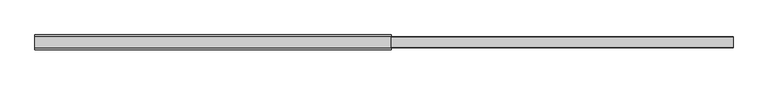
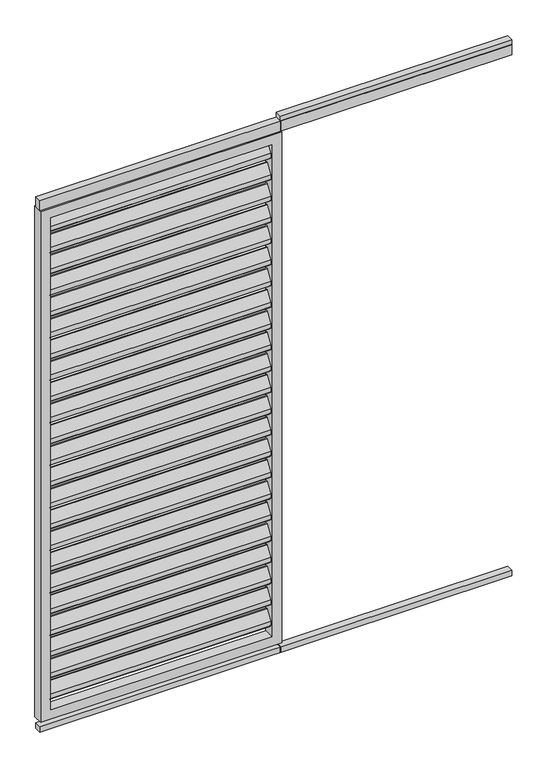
"""IFC4 building model written with IfcOpenShell, lengths in millimetres: proxy geometry, Renson_Algarve_Loggia_Paro_Aluminium : Renson_Algarve_Loggia_Paro_Aluminium."""

from ifc_helpers import new_model, si_unit, point, frame, frame_2d, origin, origin_with_axes, place, context, project, spatial, polyline, circle_curve, trimmed, segment, composite_curve, outline, extrude, source, transform, mapped, element, save


def generic_models_26a3d349(model_context):
    return source(origin(), model_context, "Body", "SweptSolid", [
        extrude(outline(composite_curve([segment(trimmed(circle_curve(frame_2d((12.6675921, 2162.6587719)), 3.0), [point((10.1515804, 2164.292689))], [point((15.6675921, 2162.6587719))], False, "CARTESIAN"), True, "CONTINUOUS"), segment(polyline([(15.6675921, 2162.6587719), (15.6675921, 2144.2979873)]), True, "CONTINUOUS"), segment(trimmed(circle_curve(frame_2d((12.6675921, 2144.2979873)), 3.0), [point((15.6675921, 2144.2979873))], [point((15.1836038, 2142.6640702))], False, "CARTESIAN"), True, "CONTINUOUS"), segment(polyline([(15.1836038, 2142.6640702), (-8.8163962, 2105.707311)]), True, "CONTINUOUS"), segment(trimmed(circle_curve(frame_2d((-11.3324079, 2107.3412281)), 3.0), [point((-8.8163962, 2105.707311))], [point((-14.3324079, 2107.3412281))], False, "CARTESIAN"), True, "CONTINUOUS"), segment(polyline([(-14.3324079, 2107.3412281), (-14.3324079, 2126.5906532), (10.1515804, 2164.292689)]), True, "CONTINUOUS")], self_intersect=False)), frame((-442.5, 0.0, 0.0), z_axis=(1.0, 0.0, 0.0), x_axis=(0.0, 1.0, 0.0)), (0.0, 0.0, 1.0), 885.0),
        extrude(outline(composite_curve([segment(trimmed(circle_curve(frame_2d((12.6675921, 2072.6587719)), 3.0), [point((10.1515804, 2074.292689))], [point((15.6675921, 2072.6587719))], False, "CARTESIAN"), True, "CONTINUOUS"), segment(polyline([(15.6675921, 2072.6587719), (15.6675921, 2054.2979873)]), True, "CONTINUOUS"), segment(trimmed(circle_curve(frame_2d((12.6675921, 2054.2979873)), 3.0), [point((15.6675921, 2054.2979873))], [point((15.1836038, 2052.6640702))], False, "CARTESIAN"), True, "CONTINUOUS"), segment(polyline([(15.1836038, 2052.6640702), (-8.8163962, 2015.707311)]), True, "CONTINUOUS"), segment(trimmed(circle_curve(frame_2d((-11.3324079, 2017.3412281)), 3.0), [point((-8.8163962, 2015.707311))], [point((-14.3324079, 2017.3412281))], False, "CARTESIAN"), True, "CONTINUOUS"), segment(polyline([(-14.3324079, 2017.3412281), (-14.3324079, 2036.5906532), (10.1515804, 2074.292689)]), True, "CONTINUOUS")], self_intersect=False)), frame((-442.5, 0.0, 0.0), z_axis=(1.0, 0.0, 0.0), x_axis=(0.0, 1.0, 0.0)), (0.0, 0.0, 1.0), 885.0),
        extrude(outline(composite_curve([segment(trimmed(circle_curve(frame_2d((12.6675921, 1982.6587719)), 3.0), [point((10.1515804, 1984.292689))], [point((15.6675921, 1982.6587719))], False, "CARTESIAN"), True, "CONTINUOUS"), segment(polyline([(15.6675921, 1982.6587719), (15.6675921, 1964.2979873)]), True, "CONTINUOUS"), segment(trimmed(circle_curve(frame_2d((12.6675921, 1964.2979873)), 3.0), [point((15.6675921, 1964.2979873))], [point((15.1836038, 1962.6640702))], False, "CARTESIAN"), True, "CONTINUOUS"), segment(polyline([(15.1836038, 1962.6640702), (-8.8163962, 1925.707311)]), True, "CONTINUOUS"), segment(trimmed(circle_curve(frame_2d((-11.3324079, 1927.3412281)), 3.0), [point((-8.8163962, 1925.707311))], [point((-14.3324079, 1927.3412281))], False, "CARTESIAN"), True, "CONTINUOUS"), segment(polyline([(-14.3324079, 1927.3412281), (-14.3324079, 1946.5906532), (10.1515804, 1984.292689)]), True, "CONTINUOUS")], self_intersect=False)), frame((-442.5, 0.0, 0.0), z_axis=(1.0, 0.0, 0.0), x_axis=(0.0, 1.0, 0.0)), (0.0, 0.0, 1.0), 885.0),
        extrude(outline(composite_curve([segment(trimmed(circle_curve(frame_2d((12.6675921, 1892.6587719)), 3.0), [point((10.1515804, 1894.292689))], [point((15.6675921, 1892.6587719))], False, "CARTESIAN"), True, "CONTINUOUS"), segment(polyline([(15.6675921, 1892.6587719), (15.6675921, 1874.2979873)]), True, "CONTINUOUS"), segment(trimmed(circle_curve(frame_2d((12.6675921, 1874.2979873)), 3.0), [point((15.6675921, 1874.2979873))], [point((15.1836038, 1872.6640702))], False, "CARTESIAN"), True, "CONTINUOUS"), segment(polyline([(15.1836038, 1872.6640702), (-8.8163962, 1835.707311)]), True, "CONTINUOUS"), segment(trimmed(circle_curve(frame_2d((-11.3324079, 1837.3412281)), 3.0), [point((-8.8163962, 1835.707311))], [point((-14.3324079, 1837.3412281))], False, "CARTESIAN"), True, "CONTINUOUS"), segment(polyline([(-14.3324079, 1837.3412281), (-14.3324079, 1856.5906532), (10.1515804, 1894.292689)]), True, "CONTINUOUS")], self_intersect=False)), frame((-442.5, 0.0, 0.0), z_axis=(1.0, 0.0, 0.0), x_axis=(0.0, 1.0, 0.0)), (0.0, 0.0, 1.0), 885.0),
        extrude(outline(composite_curve([segment(trimmed(circle_curve(frame_2d((12.6675921, 1802.6587719)), 3.0), [point((10.1515804, 1804.292689))], [point((15.6675921, 1802.6587719))], False, "CARTESIAN"), True, "CONTINUOUS"), segment(polyline([(15.6675921, 1802.6587719), (15.6675921, 1784.2979873)]), True, "CONTINUOUS"), segment(trimmed(circle_curve(frame_2d((12.6675921, 1784.2979873)), 3.0), [point((15.6675921, 1784.2979873))], [point((15.1836038, 1782.6640702))], False, "CARTESIAN"), True, "CONTINUOUS"), segment(polyline([(15.1836038, 1782.6640702), (-8.8163962, 1745.707311)]), True, "CONTINUOUS"), segment(trimmed(circle_curve(frame_2d((-11.3324079, 1747.3412281)), 3.0), [point((-8.8163962, 1745.707311))], [point((-14.3324079, 1747.3412281))], False, "CARTESIAN"), True, "CONTINUOUS"), segment(polyline([(-14.3324079, 1747.3412281), (-14.3324079, 1766.5906532), (10.1515804, 1804.292689)]), True, "CONTINUOUS")], self_intersect=False)), frame((-442.5, 0.0, 0.0), z_axis=(1.0, 0.0, 0.0), x_axis=(0.0, 1.0, 0.0)), (0.0, 0.0, 1.0), 885.0),
        extrude(outline(composite_curve([segment(trimmed(circle_curve(frame_2d((12.6675921, 1712.6587719)), 3.0), [point((10.1515804, 1714.292689))], [point((15.6675921, 1712.6587719))], False, "CARTESIAN"), True, "CONTINUOUS"), segment(polyline([(15.6675921, 1712.6587719), (15.6675921, 1694.2979873)]), True, "CONTINUOUS"), segment(trimmed(circle_curve(frame_2d((12.6675921, 1694.2979873)), 3.0), [point((15.6675921, 1694.2979873))], [point((15.1836038, 1692.6640702))], False, "CARTESIAN"), True, "CONTINUOUS"), segment(polyline([(15.1836038, 1692.6640702), (-8.8163962, 1655.707311)]), True, "CONTINUOUS"), segment(trimmed(circle_curve(frame_2d((-11.3324079, 1657.3412281)), 3.0), [point((-8.8163962, 1655.707311))], [point((-14.3324079, 1657.3412281))], False, "CARTESIAN"), True, "CONTINUOUS"), segment(polyline([(-14.3324079, 1657.3412281), (-14.3324079, 1676.5906532), (10.1515804, 1714.292689)]), True, "CONTINUOUS")], self_intersect=False)), frame((-442.5, 0.0, 0.0), z_axis=(1.0, 0.0, 0.0), x_axis=(0.0, 1.0, 0.0)), (0.0, 0.0, 1.0), 885.0),
        extrude(outline(composite_curve([segment(trimmed(circle_curve(frame_2d((12.6675921, 1622.6587719)), 3.0), [point((10.1515804, 1624.292689))], [point((15.6675921, 1622.6587719))], False, "CARTESIAN"), True, "CONTINUOUS"), segment(polyline([(15.6675921, 1622.6587719), (15.6675921, 1604.2979873)]), True, "CONTINUOUS"), segment(trimmed(circle_curve(frame_2d((12.6675921, 1604.2979873)), 3.0), [point((15.6675921, 1604.2979873))], [point((15.1836038, 1602.6640702))], False, "CARTESIAN"), True, "CONTINUOUS"), segment(polyline([(15.1836038, 1602.6640702), (-8.8163962, 1565.707311)]), True, "CONTINUOUS"), segment(trimmed(circle_curve(frame_2d((-11.3324079, 1567.3412281)), 3.0), [point((-8.8163962, 1565.707311))], [point((-14.3324079, 1567.3412281))], False, "CARTESIAN"), True, "CONTINUOUS"), segment(polyline([(-14.3324079, 1567.3412281), (-14.3324079, 1586.5906532), (10.1515804, 1624.292689)]), True, "CONTINUOUS")], self_intersect=False)), frame((-442.5, 0.0, 0.0), z_axis=(1.0, 0.0, 0.0), x_axis=(0.0, 1.0, 0.0)), (0.0, 0.0, 1.0), 885.0),
        extrude(outline(composite_curve([segment(trimmed(circle_curve(frame_2d((12.6675921, 1532.6587719)), 3.0), [point((10.1515804, 1534.292689))], [point((15.6675921, 1532.6587719))], False, "CARTESIAN"), True, "CONTINUOUS"), segment(polyline([(15.6675921, 1532.6587719), (15.6675921, 1514.2979873)]), True, "CONTINUOUS"), segment(trimmed(circle_curve(frame_2d((12.6675921, 1514.2979873)), 3.0), [point((15.6675921, 1514.2979873))], [point((15.1836038, 1512.6640702))], False, "CARTESIAN"), True, "CONTINUOUS"), segment(polyline([(15.1836038, 1512.6640702), (-8.8163962, 1475.707311)]), True, "CONTINUOUS"), segment(trimmed(circle_curve(frame_2d((-11.3324079, 1477.3412281)), 3.0), [point((-8.8163962, 1475.707311))], [point((-14.3324079, 1477.3412281))], False, "CARTESIAN"), True, "CONTINUOUS"), segment(polyline([(-14.3324079, 1477.3412281), (-14.3324079, 1496.5906532), (10.1515804, 1534.292689)]), True, "CONTINUOUS")], self_intersect=False)), frame((-442.5, 0.0, 0.0), z_axis=(1.0, 0.0, 0.0), x_axis=(0.0, 1.0, 0.0)), (0.0, 0.0, 1.0), 885.0),
        extrude(outline(composite_curve([segment(trimmed(circle_curve(frame_2d((12.6675921, 1442.6587719)), 3.0), [point((10.1515804, 1444.292689))], [point((15.6675921, 1442.6587719))], False, "CARTESIAN"), True, "CONTINUOUS"), segment(polyline([(15.6675921, 1442.6587719), (15.6675921, 1424.2979873)]), True, "CONTINUOUS"), segment(trimmed(circle_curve(frame_2d((12.6675921, 1424.2979873)), 3.0), [point((15.6675921, 1424.2979873))], [point((15.1836038, 1422.6640702))], False, "CARTESIAN"), True, "CONTINUOUS"), segment(polyline([(15.1836038, 1422.6640702), (-8.8163962, 1385.707311)]), True, "CONTINUOUS"), segment(trimmed(circle_curve(frame_2d((-11.3324079, 1387.3412281)), 3.0), [point((-8.8163962, 1385.707311))], [point((-14.3324079, 1387.3412281))], False, "CARTESIAN"), True, "CONTINUOUS"), segment(polyline([(-14.3324079, 1387.3412281), (-14.3324079, 1406.5906532), (10.1515804, 1444.292689)]), True, "CONTINUOUS")], self_intersect=False)), frame((-442.5, 0.0, 0.0), z_axis=(1.0, 0.0, 0.0), x_axis=(0.0, 1.0, 0.0)), (0.0, 0.0, 1.0), 885.0),
        extrude(outline(composite_curve([segment(trimmed(circle_curve(frame_2d((12.6675921, 1352.6587719)), 3.0), [point((10.1515804, 1354.292689))], [point((15.6675921, 1352.6587719))], False, "CARTESIAN"), True, "CONTINUOUS"), segment(polyline([(15.6675921, 1352.6587719), (15.6675921, 1334.2979873)]), True, "CONTINUOUS"), segment(trimmed(circle_curve(frame_2d((12.6675921, 1334.2979873)), 3.0), [point((15.6675921, 1334.2979873))], [point((15.1836038, 1332.6640702))], False, "CARTESIAN"), True, "CONTINUOUS"), segment(polyline([(15.1836038, 1332.6640702), (-8.8163962, 1295.707311)]), True, "CONTINUOUS"), segment(trimmed(circle_curve(frame_2d((-11.3324079, 1297.3412281)), 3.0), [point((-8.8163962, 1295.707311))], [point((-14.3324079, 1297.3412281))], False, "CARTESIAN"), True, "CONTINUOUS"), segment(polyline([(-14.3324079, 1297.3412281), (-14.3324079, 1316.5906532), (10.1515804, 1354.292689)]), True, "CONTINUOUS")], self_intersect=False)), frame((-442.5, 0.0, 0.0), z_axis=(1.0, 0.0, 0.0), x_axis=(0.0, 1.0, 0.0)), (0.0, 0.0, 1.0), 885.0),
        extrude(outline(composite_curve([segment(trimmed(circle_curve(frame_2d((12.6675921, 1262.6587719)), 3.0), [point((10.1515804, 1264.292689))], [point((15.6675921, 1262.6587719))], False, "CARTESIAN"), True, "CONTINUOUS"), segment(polyline([(15.6675921, 1262.6587719), (15.6675921, 1244.2979873)]), True, "CONTINUOUS"), segment(trimmed(circle_curve(frame_2d((12.6675921, 1244.2979873)), 3.0), [point((15.6675921, 1244.2979873))], [point((15.1836038, 1242.6640702))], False, "CARTESIAN"), True, "CONTINUOUS"), segment(polyline([(15.1836038, 1242.6640702), (-8.8163962, 1205.707311)]), True, "CONTINUOUS"), segment(trimmed(circle_curve(frame_2d((-11.3324079, 1207.3412281)), 3.0), [point((-8.8163962, 1205.707311))], [point((-14.3324079, 1207.3412281))], False, "CARTESIAN"), True, "CONTINUOUS"), segment(polyline([(-14.3324079, 1207.3412281), (-14.3324079, 1226.5906532), (10.1515804, 1264.292689)]), True, "CONTINUOUS")], self_intersect=False)), frame((-442.5, 0.0, 0.0), z_axis=(1.0, 0.0, 0.0), x_axis=(0.0, 1.0, 0.0)), (0.0, 0.0, 1.0), 885.0),
        extrude(outline(composite_curve([segment(trimmed(circle_curve(frame_2d((12.6675921, 1172.6587719)), 3.0), [point((10.1515804, 1174.292689))], [point((15.6675921, 1172.6587719))], False, "CARTESIAN"), True, "CONTINUOUS"), segment(polyline([(15.6675921, 1172.6587719), (15.6675921, 1154.2979873)]), True, "CONTINUOUS"), segment(trimmed(circle_curve(frame_2d((12.6675921, 1154.2979873)), 3.0), [point((15.6675921, 1154.2979873))], [point((15.1836038, 1152.6640702))], False, "CARTESIAN"), True, "CONTINUOUS"), segment(polyline([(15.1836038, 1152.6640702), (-8.8163962, 1115.707311)]), True, "CONTINUOUS"), segment(trimmed(circle_curve(frame_2d((-11.3324079, 1117.3412281)), 3.0), [point((-8.8163962, 1115.707311))], [point((-14.3324079, 1117.3412281))], False, "CARTESIAN"), True, "CONTINUOUS"), segment(polyline([(-14.3324079, 1117.3412281), (-14.3324079, 1136.5906532), (10.1515804, 1174.292689)]), True, "CONTINUOUS")], self_intersect=False)), frame((-442.5, 0.0, 0.0), z_axis=(1.0, 0.0, 0.0), x_axis=(0.0, 1.0, 0.0)), (0.0, 0.0, 1.0), 885.0),
        extrude(outline(composite_curve([segment(trimmed(circle_curve(frame_2d((12.6675921, 1082.6587719)), 3.0), [point((10.1515804, 1084.292689))], [point((15.6675921, 1082.6587719))], False, "CARTESIAN"), True, "CONTINUOUS"), segment(polyline([(15.6675921, 1082.6587719), (15.6675921, 1064.2979873)]), True, "CONTINUOUS"), segment(trimmed(circle_curve(frame_2d((12.6675921, 1064.2979873)), 3.0), [point((15.6675921, 1064.2979873))], [point((15.1836038, 1062.6640702))], False, "CARTESIAN"), True, "CONTINUOUS"), segment(polyline([(15.1836038, 1062.6640702), (-8.8163962, 1025.707311)]), True, "CONTINUOUS"), segment(trimmed(circle_curve(frame_2d((-11.3324079, 1027.3412281)), 3.0), [point((-8.8163962, 1025.707311))], [point((-14.3324079, 1027.3412281))], False, "CARTESIAN"), True, "CONTINUOUS"), segment(polyline([(-14.3324079, 1027.3412281), (-14.3324079, 1046.5906532), (10.1515804, 1084.292689)]), True, "CONTINUOUS")], self_intersect=False)), frame((-442.5, 0.0, 0.0), z_axis=(1.0, 0.0, 0.0), x_axis=(0.0, 1.0, 0.0)), (0.0, 0.0, 1.0), 885.0),
        extrude(outline(composite_curve([segment(trimmed(circle_curve(frame_2d((12.6675921, 992.6587719)), 3.0), [point((10.1515804, 994.292689))], [point((15.6675921, 992.6587719))], False, "CARTESIAN"), True, "CONTINUOUS"), segment(polyline([(15.6675921, 992.6587719), (15.6675921, 974.2979873)]), True, "CONTINUOUS"), segment(trimmed(circle_curve(frame_2d((12.6675921, 974.2979873)), 3.0), [point((15.6675921, 974.2979873))], [point((15.1836038, 972.6640702))], False, "CARTESIAN"), True, "CONTINUOUS"), segment(polyline([(15.1836038, 972.6640702), (-8.8163962, 935.707311)]), True, "CONTINUOUS"), segment(trimmed(circle_curve(frame_2d((-11.3324079, 937.3412281)), 3.0), [point((-8.8163962, 935.707311))], [point((-14.3324079, 937.3412281))], False, "CARTESIAN"), True, "CONTINUOUS"), segment(polyline([(-14.3324079, 937.3412281), (-14.3324079, 956.5906532), (10.1515804, 994.292689)]), True, "CONTINUOUS")], self_intersect=False)), frame((-442.5, 0.0, 0.0), z_axis=(1.0, 0.0, 0.0), x_axis=(0.0, 1.0, 0.0)), (0.0, 0.0, 1.0), 885.0),
        extrude(outline(composite_curve([segment(trimmed(circle_curve(frame_2d((12.6675921, 902.6587719)), 3.0), [point((10.1515804, 904.292689))], [point((15.6675921, 902.6587719))], False, "CARTESIAN"), True, "CONTINUOUS"), segment(polyline([(15.6675921, 902.6587719), (15.6675921, 884.2979873)]), True, "CONTINUOUS"), segment(trimmed(circle_curve(frame_2d((12.6675921, 884.2979873)), 3.0), [point((15.6675921, 884.2979873))], [point((15.1836038, 882.6640702))], False, "CARTESIAN"), True, "CONTINUOUS"), segment(polyline([(15.1836038, 882.6640702), (-8.8163962, 845.707311)]), True, "CONTINUOUS"), segment(trimmed(circle_curve(frame_2d((-11.3324079, 847.3412281)), 3.0), [point((-8.8163962, 845.707311))], [point((-14.3324079, 847.3412281))], False, "CARTESIAN"), True, "CONTINUOUS"), segment(polyline([(-14.3324079, 847.3412281), (-14.3324079, 866.5906532), (10.1515804, 904.292689)]), True, "CONTINUOUS")], self_intersect=False)), frame((-442.5, 0.0, 0.0), z_axis=(1.0, 0.0, 0.0), x_axis=(0.0, 1.0, 0.0)), (0.0, 0.0, 1.0), 885.0),
        extrude(outline(composite_curve([segment(trimmed(circle_curve(frame_2d((12.6675921, 812.6587719)), 3.0), [point((10.1515804, 814.292689))], [point((15.6675921, 812.6587719))], False, "CARTESIAN"), True, "CONTINUOUS"), segment(polyline([(15.6675921, 812.6587719), (15.6675921, 794.2979873)]), True, "CONTINUOUS"), segment(trimmed(circle_curve(frame_2d((12.6675921, 794.2979873)), 3.0), [point((15.6675921, 794.2979873))], [point((15.1836038, 792.6640702))], False, "CARTESIAN"), True, "CONTINUOUS"), segment(polyline([(15.1836038, 792.6640702), (-8.8163962, 755.707311)]), True, "CONTINUOUS"), segment(trimmed(circle_curve(frame_2d((-11.3324079, 757.3412281)), 3.0), [point((-8.8163962, 755.707311))], [point((-14.3324079, 757.3412281))], False, "CARTESIAN"), True, "CONTINUOUS"), segment(polyline([(-14.3324079, 757.3412281), (-14.3324079, 776.5906532), (10.1515804, 814.292689)]), True, "CONTINUOUS")], self_intersect=False)), frame((-442.5, 0.0, 0.0), z_axis=(1.0, 0.0, 0.0), x_axis=(0.0, 1.0, 0.0)), (0.0, 0.0, 1.0), 885.0),
        extrude(outline(composite_curve([segment(trimmed(circle_curve(frame_2d((12.6675921, 722.6587719)), 3.0), [point((10.1515804, 724.292689))], [point((15.6675921, 722.6587719))], False, "CARTESIAN"), True, "CONTINUOUS"), segment(polyline([(15.6675921, 722.6587719), (15.6675921, 704.2979873)]), True, "CONTINUOUS"), segment(trimmed(circle_curve(frame_2d((12.6675921, 704.2979873)), 3.0), [point((15.6675921, 704.2979873))], [point((15.1836038, 702.6640702))], False, "CARTESIAN"), True, "CONTINUOUS"), segment(polyline([(15.1836038, 702.6640702), (-8.8163962, 665.707311)]), True, "CONTINUOUS"), segment(trimmed(circle_curve(frame_2d((-11.3324079, 667.3412281)), 3.0), [point((-8.8163962, 665.707311))], [point((-14.3324079, 667.3412281))], False, "CARTESIAN"), True, "CONTINUOUS"), segment(polyline([(-14.3324079, 667.3412281), (-14.3324079, 686.5906532), (10.1515804, 724.292689)]), True, "CONTINUOUS")], self_intersect=False)), frame((-442.5, 0.0, 0.0), z_axis=(1.0, 0.0, 0.0), x_axis=(0.0, 1.0, 0.0)), (0.0, 0.0, 1.0), 885.0),
        extrude(outline(composite_curve([segment(trimmed(circle_curve(frame_2d((12.6675921, 632.6587719)), 3.0), [point((10.1515804, 634.292689))], [point((15.6675921, 632.6587719))], False, "CARTESIAN"), True, "CONTINUOUS"), segment(polyline([(15.6675921, 632.6587719), (15.6675921, 614.2979873)]), True, "CONTINUOUS"), segment(trimmed(circle_curve(frame_2d((12.6675921, 614.2979873)), 3.0), [point((15.6675921, 614.2979873))], [point((15.1836038, 612.6640702))], False, "CARTESIAN"), True, "CONTINUOUS"), segment(polyline([(15.1836038, 612.6640702), (-8.8163962, 575.707311)]), True, "CONTINUOUS"), segment(trimmed(circle_curve(frame_2d((-11.3324079, 577.3412281)), 3.0), [point((-8.8163962, 575.707311))], [point((-14.3324079, 577.3412281))], False, "CARTESIAN"), True, "CONTINUOUS"), segment(polyline([(-14.3324079, 577.3412281), (-14.3324079, 596.5906532), (10.1515804, 634.292689)]), True, "CONTINUOUS")], self_intersect=False)), frame((-442.5, 0.0, 0.0), z_axis=(1.0, 0.0, 0.0), x_axis=(0.0, 1.0, 0.0)), (0.0, 0.0, 1.0), 885.0),
        extrude(outline(composite_curve([segment(trimmed(circle_curve(frame_2d((12.6675921, 542.6587719)), 3.0), [point((10.1515804, 544.292689))], [point((15.6675921, 542.6587719))], False, "CARTESIAN"), True, "CONTINUOUS"), segment(polyline([(15.6675921, 542.6587719), (15.6675921, 524.2979873)]), True, "CONTINUOUS"), segment(trimmed(circle_curve(frame_2d((12.6675921, 524.2979873)), 3.0), [point((15.6675921, 524.2979873))], [point((15.1836038, 522.6640702))], False, "CARTESIAN"), True, "CONTINUOUS"), segment(polyline([(15.1836038, 522.6640702), (-8.8163962, 485.707311)]), True, "CONTINUOUS"), segment(trimmed(circle_curve(frame_2d((-11.3324079, 487.3412281)), 3.0), [point((-8.8163962, 485.707311))], [point((-14.3324079, 487.3412281))], False, "CARTESIAN"), True, "CONTINUOUS"), segment(polyline([(-14.3324079, 487.3412281), (-14.3324079, 506.5906532), (10.1515804, 544.292689)]), True, "CONTINUOUS")], self_intersect=False)), frame((-442.5, 0.0, 0.0), z_axis=(1.0, 0.0, 0.0), x_axis=(0.0, 1.0, 0.0)), (0.0, 0.0, 1.0), 885.0),
        extrude(outline(composite_curve([segment(trimmed(circle_curve(frame_2d((12.6675921, 452.6587719)), 3.0), [point((10.1515804, 454.292689))], [point((15.6675921, 452.6587719))], False, "CARTESIAN"), True, "CONTINUOUS"), segment(polyline([(15.6675921, 452.6587719), (15.6675921, 434.2979873)]), True, "CONTINUOUS"), segment(trimmed(circle_curve(frame_2d((12.6675921, 434.2979873)), 3.0), [point((15.6675921, 434.2979873))], [point((15.1836038, 432.6640702))], False, "CARTESIAN"), True, "CONTINUOUS"), segment(polyline([(15.1836038, 432.6640702), (-8.8163962, 395.707311)]), True, "CONTINUOUS"), segment(trimmed(circle_curve(frame_2d((-11.3324079, 397.3412281)), 3.0), [point((-8.8163962, 395.707311))], [point((-14.3324079, 397.3412281))], False, "CARTESIAN"), True, "CONTINUOUS"), segment(polyline([(-14.3324079, 397.3412281), (-14.3324079, 416.5906532), (10.1515804, 454.292689)]), True, "CONTINUOUS")], self_intersect=False)), frame((-442.5, 0.0, 0.0), z_axis=(1.0, 0.0, 0.0), x_axis=(0.0, 1.0, 0.0)), (0.0, 0.0, 1.0), 885.0),
        extrude(outline(composite_curve([segment(trimmed(circle_curve(frame_2d((12.6675921, 362.6587719)), 3.0), [point((10.1515804, 364.292689))], [point((15.6675921, 362.6587719))], False, "CARTESIAN"), True, "CONTINUOUS"), segment(polyline([(15.6675921, 362.6587719), (15.6675921, 344.2979873)]), True, "CONTINUOUS"), segment(trimmed(circle_curve(frame_2d((12.6675921, 344.2979873)), 3.0), [point((15.6675921, 344.2979873))], [point((15.1836038, 342.6640702))], False, "CARTESIAN"), True, "CONTINUOUS"), segment(polyline([(15.1836038, 342.6640702), (-8.8163962, 305.707311)]), True, "CONTINUOUS"), segment(trimmed(circle_curve(frame_2d((-11.3324079, 307.3412281)), 3.0), [point((-8.8163962, 305.707311))], [point((-14.3324079, 307.3412281))], False, "CARTESIAN"), True, "CONTINUOUS"), segment(polyline([(-14.3324079, 307.3412281), (-14.3324079, 326.5906532), (10.1515804, 364.292689)]), True, "CONTINUOUS")], self_intersect=False)), frame((-442.5, 0.0, 0.0), z_axis=(1.0, 0.0, 0.0), x_axis=(0.0, 1.0, 0.0)), (0.0, 0.0, 1.0), 885.0),
        extrude(outline(composite_curve([segment(trimmed(circle_curve(frame_2d((12.6675921, 272.6587719)), 3.0), [point((10.1515804, 274.292689))], [point((15.6675921, 272.6587719))], False, "CARTESIAN"), True, "CONTINUOUS"), segment(polyline([(15.6675921, 272.6587719), (15.6675921, 254.2979873)]), True, "CONTINUOUS"), segment(trimmed(circle_curve(frame_2d((12.6675921, 254.2979873)), 3.0), [point((15.6675921, 254.2979873))], [point((15.1836038, 252.6640702))], False, "CARTESIAN"), True, "CONTINUOUS"), segment(polyline([(15.1836038, 252.6640702), (-8.8163962, 215.707311)]), True, "CONTINUOUS"), segment(trimmed(circle_curve(frame_2d((-11.3324079, 217.3412281)), 3.0), [point((-8.8163962, 215.707311))], [point((-14.3324079, 217.3412281))], False, "CARTESIAN"), True, "CONTINUOUS"), segment(polyline([(-14.3324079, 217.3412281), (-14.3324079, 236.5906532), (10.1515804, 274.292689)]), True, "CONTINUOUS")], self_intersect=False)), frame((-442.5, 0.0, 0.0), z_axis=(1.0, 0.0, 0.0), x_axis=(0.0, 1.0, 0.0)), (0.0, 0.0, 1.0), 885.0),
        extrude(outline(composite_curve([segment(trimmed(circle_curve(frame_2d((12.6675921, 182.6587719)), 3.0), [point((10.1515804, 184.292689))], [point((15.6675921, 182.6587719))], False, "CARTESIAN"), True, "CONTINUOUS"), segment(polyline([(15.6675921, 182.6587719), (15.6675921, 164.2979873)]), True, "CONTINUOUS"), segment(trimmed(circle_curve(frame_2d((12.6675921, 164.2979873)), 3.0), [point((15.6675921, 164.2979873))], [point((15.1836038, 162.6640702))], False, "CARTESIAN"), True, "CONTINUOUS"), segment(polyline([(15.1836038, 162.6640702), (-8.8163962, 125.707311)]), True, "CONTINUOUS"), segment(trimmed(circle_curve(frame_2d((-11.3324079, 127.3412281)), 3.0), [point((-8.8163962, 125.707311))], [point((-14.3324079, 127.3412281))], False, "CARTESIAN"), True, "CONTINUOUS"), segment(polyline([(-14.3324079, 127.3412281), (-14.3324079, 146.5906532), (10.1515804, 184.292689)]), True, "CONTINUOUS")], self_intersect=False)), frame((-442.5, 0.0, 0.0), z_axis=(1.0, 0.0, 0.0), x_axis=(0.0, 1.0, 0.0)), (0.0, 0.0, 1.0), 885.0),
        extrude(outline(polyline([(1407.5, -13.0), (481.5, -13.0), (481.5, 14.0), (1407.5, 14.0), (1407.5, -13.0)])), frame((0.0, 0.0, 2250.0), z_axis=(0.0, 0.0, 1.0), x_axis=(1.0, 0.0, 0.0)), (0.0, 0.0, 1.0), 20.0),
        extrude(outline(polyline([(482.5, 15.0), (482.5, -15.0), (481.5, -15.0), (481.5, 15.0), (482.5, 15.0)])), frame((0.0, 0.0, 2207.7138321), z_axis=(0.0, 0.0, 1.0), x_axis=(1.0, 0.0, 0.0)), (0.0, 0.0, 1.0), 42.2861679),
        extrude(outline(polyline([(1407.5, 15.0), (1407.5, -15.0), (-482.5, -15.0), (-482.5, 15.0), (1407.5, 15.0)])), frame((0.0, 0.0, 2207.7138321), z_axis=(0.0, 0.0, 1.0), x_axis=(1.0, 0.0, 0.0)), (0.0, 0.0, 1.0), 42.2861679),
        extrude(outline(polyline([(482.5, -13.0), (481.5, -13.0), (481.5, 14.0), (482.5, 14.0), (482.5, -13.0)])), origin_with_axes(), (0.0, 0.0, 1.0), 23.0),
        extrude(outline(polyline([(1407.5, -13.0), (-482.5, -13.0), (-482.5, 14.0), (1407.5, 14.0), (1407.5, -13.0)])), origin_with_axes(), (0.0, 0.0, 1.0), 23.0),
        extrude(outline(polyline([(2207.7138321, -482.5), (45.0, -482.5), (45.0, 482.5), (2207.7138321, 482.5), (2207.7138321, -482.5)]), holes=[polyline([(2167.7138321, 442.5), (85.0, 442.5), (85.0, -442.5), (2167.7138321, -442.5), (2167.7138321, 442.5)])]), frame((0.0, -20.0, 0.0), z_axis=(0.0, 1.0, 0.0), x_axis=(0.0, 0.0, 1.0)), (0.0, 0.0, 1.0), 40.0),
    ])


if __name__ == "__main__":
    model = new_model("IFC4")
    model_context = context("Model", 3, world=origin())
    ifc_project = project(units=[si_unit("LENGTHUNIT", "METRE", prefix="MILLI")], contexts=[model_context])
    site = spatial("IfcSite", under=ifc_project)
    building = spatial("IfcBuilding", under=site)
    placement = place(None, origin())
    generic_models_shape = generic_models_26a3d349(model_context)
    element("IfcBuildingElementProxy", 1, Name="Renson_Algarve_Loggia_Paro_Aluminium : Renson_Algarve_Loggia_Paro_Aluminium", ObjectType="Renson_Algarve_Loggia_Paro_Aluminium : Renson_Algarve_Loggia_Paro_Aluminium", at=placement, inside=building, context=model_context, shape_type="MappedRepresentation", body=[
        mapped(generic_models_shape, transform((0.0, 0.0, 0.0), x_axis=(1.0, 0.0, 0.0), y_axis=(0.0, 1.0, 0.0), z_axis=(0.0, 0.0, 1.0))),
    ])
    save(model, "model.ifc")
